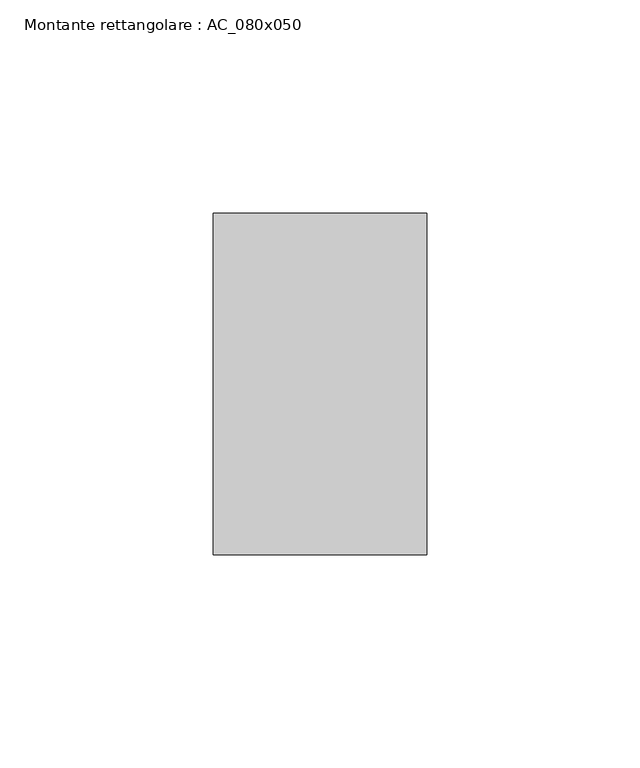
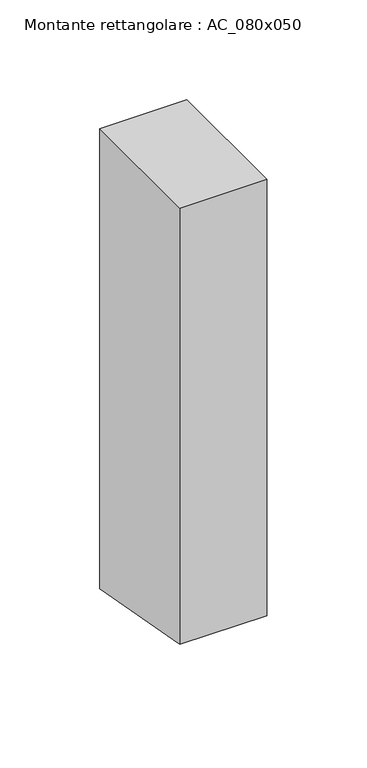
"""IFC4 building model written with IfcOpenShell, lengths in millimetres: member geometry, Montante rettangolare : AC_080x050."""

from ifc_helpers import new_model, si_unit, frame, origin, place, context, project, spatial, polyline, outline, extrude, source, transform, mapped, element, save


def montante_rettangolare_ac_080x050_3b2be03d(model_context):
    return source(origin(), model_context, "Body", "SweptSolid", [
        extrude(outline(polyline([(-40.0, 0.0), (40.0, 0.0), (40.0, -280.7937117), (-40.0, -266.4278328), (-40.0, 0.0)])), frame((-50.0, 0.0, 0.0), z_axis=(1.0, 0.0, 0.0), x_axis=(0.0, 1.0, 0.0)), (0.0, 0.0, 1.0), 50.0),
    ])


if __name__ == "__main__":
    model = new_model("IFC4")
    model_context = context("Model", 3, world=origin())
    ifc_project = project(units=[si_unit("LENGTHUNIT", "METRE", prefix="MILLI")], contexts=[model_context])
    site = spatial("IfcSite", under=ifc_project)
    building = spatial("IfcBuilding", under=site)
    placement = place(None, origin())
    montante_rettangolare_ac_080x050_shape = montante_rettangolare_ac_080x050_3b2be03d(model_context)
    element("IfcMember", 1, ObjectType="Montante rettangolare : AC_080x050", at=placement, inside=building, context=model_context, shape_type="MappedRepresentation", body=[
        mapped(montante_rettangolare_ac_080x050_shape, transform((0.0, 0.0, 0.0), x_axis=(1.0, 0.0, 0.0), y_axis=(0.0, 1.0, 0.0), z_axis=(0.0, 0.0, 1.0))),
    ])
    save(model, "model.ifc")
